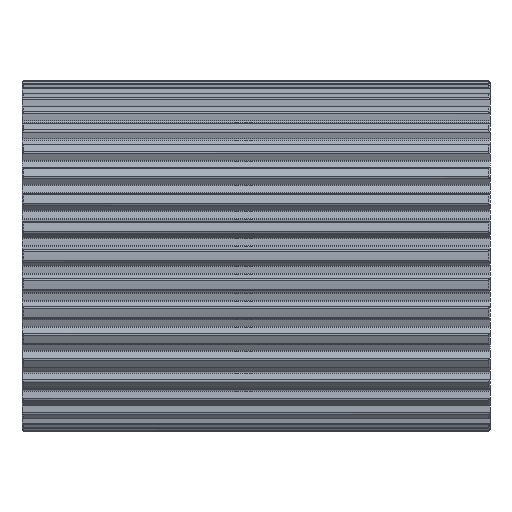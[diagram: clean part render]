
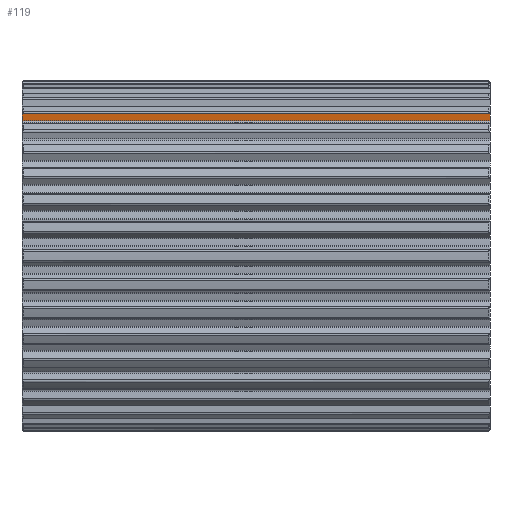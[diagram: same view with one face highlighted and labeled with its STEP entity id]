
A CAD part, front view. The second image highlights one B-rep face of the part: STEP entity #119.
In plain terms, the highlighted planar face has unit normal (0, -0.99, -0.142).
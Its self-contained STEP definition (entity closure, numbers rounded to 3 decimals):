
#119=ADVANCED_FACE('',(#593),#594,.T.);
#593=FACE_OUTER_BOUND('',#1395,.T.);
#594=PLANE('',#1396);
#1395=EDGE_LOOP('',(#2646,#2647,#2648,#2649,#2650,#2651));
#1396=AXIS2_PLACEMENT_3D('',#2652,#2653,#2654);
#2646=ORIENTED_EDGE('',*,*,#5836,.T.);
#2647=ORIENTED_EDGE('',*,*,#5941,.F.);
#2648=ORIENTED_EDGE('',*,*,#5942,.T.);
#2649=ORIENTED_EDGE('',*,*,#5943,.T.);
#2650=ORIENTED_EDGE('',*,*,#5944,.T.);
#2651=ORIENTED_EDGE('',*,*,#5939,.F.);
#2652=CARTESIAN_POINT('',(0.0,-34.109,47.495));
#2653=DIRECTION('',(0.,-0.99,-0.142));
#2654=DIRECTION('',(0.,0.142,-0.99));
#5836=EDGE_CURVE('',#7229,#7227,#7230,.T.);
#5939=EDGE_CURVE('',#7229,#7417,#7418,.T.);
#5941=EDGE_CURVE('',#7420,#7227,#7421,.T.);
#5942=EDGE_CURVE('',#7420,#7422,#7423,.T.);
#5943=EDGE_CURVE('',#7422,#7424,#7425,.T.);
#5944=EDGE_CURVE('',#7424,#7417,#7426,.T.);
#7227=VERTEX_POINT('',#10295);
#7229=VERTEX_POINT('',#10297);
#7230=(B_SPLINE_CURVE(2,(#10299,#10300,#10301),.UNSPECIFIED.,.F.,.F.)B_SPLINE_CURVE_WITH_KNOTS((3,3),(0.0,0.751),.UNSPECIFIED.)RATIONAL_B_SPLINE_CURVE((1.0,1.,1.0))BOUNDED_CURVE()REPRESENTATION_ITEM('')GEOMETRIC_REPRESENTATION_ITEM()CURVE());
#7417=VERTEX_POINT('',#10931);
#7418=LINE('',#10932,#10933);
#7420=VERTEX_POINT('',#10944);
#7421=LINE('',#10945,#10946);
#7422=VERTEX_POINT('',#10947);
#7423=LINE('',#10948,#10949);
#7424=VERTEX_POINT('',#10950);
#7425=LINE('',#10951,#10952);
#7426=(B_SPLINE_CURVE(2,(#10954,#10955,#10956),.UNSPECIFIED.,.F.,.F.)B_SPLINE_CURVE_WITH_KNOTS((3,3),(0.0,0.751),.UNSPECIFIED.)RATIONAL_B_SPLINE_CURVE((1.0,1.,1.0))BOUNDED_CURVE()REPRESENTATION_ITEM('')GEOMETRIC_REPRESENTATION_ITEM()CURVE());
#10295=CARTESIAN_POINT('',(0.0,-34.269,48.61));
#10297=CARTESIAN_POINT('',(0.074,-34.281,48.692));
#10299=CARTESIAN_POINT('',(0.5,-34.348,49.165));
#10300=CARTESIAN_POINT('',(0.249,-34.308,48.886));
#10301=CARTESIAN_POINT('',(0.0,-34.269,48.61));
#10931=CARTESIAN_POINT('',(159.926,-34.281,48.692));
#10932=CARTESIAN_POINT('',(0.0,-34.281,48.692));
#10933=VECTOR('',#14313,1.0);
#10944=CARTESIAN_POINT('',(0.0,-33.937,46.298));
#10945=CARTESIAN_POINT('',(0.0,-33.937,46.298));
#10946=VECTOR('',#14314,1.);
#10947=CARTESIAN_POINT('',(160.0,-33.937,46.298));
#10948=CARTESIAN_POINT('',(0.0,-33.937,46.298));
#10949=VECTOR('',#14315,1.0);
#10950=CARTESIAN_POINT('',(160.0,-34.269,48.61));
#10951=CARTESIAN_POINT('',(160.0,-33.937,46.298));
#10952=VECTOR('',#14316,1.);
#10954=CARTESIAN_POINT('',(160.0,-34.269,48.61));
#10955=CARTESIAN_POINT('',(159.751,-34.308,48.886));
#10956=CARTESIAN_POINT('',(159.5,-34.348,49.165));
#14313=DIRECTION('',(1.0,0.,0.));
#14314=DIRECTION('',(0.,-0.142,0.99));
#14315=DIRECTION('',(1.0,0.,0.));
#14316=DIRECTION('',(0.,-0.142,0.99));
